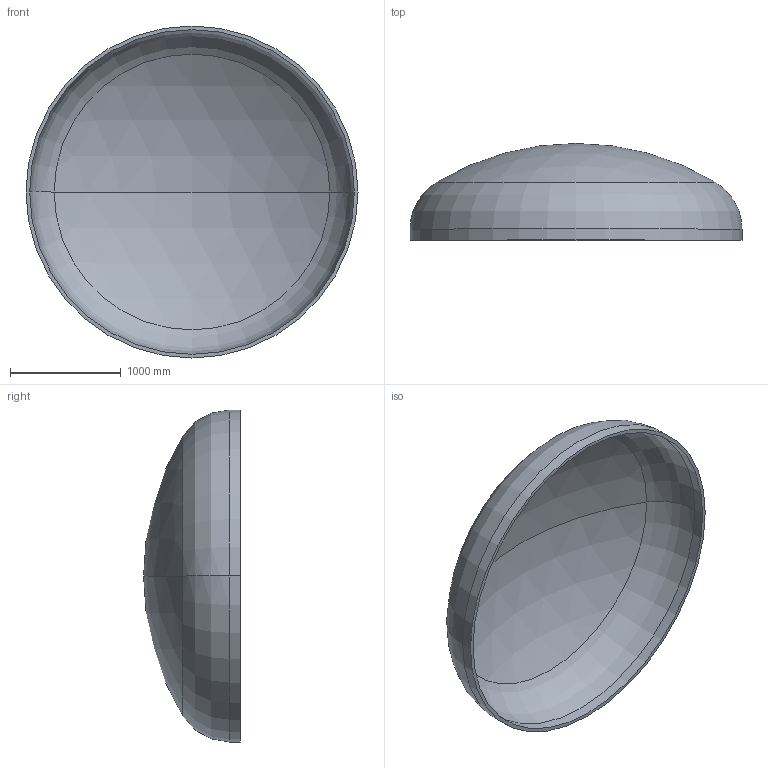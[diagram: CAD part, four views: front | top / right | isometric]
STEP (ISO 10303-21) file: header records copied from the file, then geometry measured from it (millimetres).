
FILE_DESCRIPTION (( 'STEP AP203' ), '1' );
FILE_NAME ('DIN 28013 Korbbogenform_-_Boden DIN 28013 - 3000 x 100 - I - s=33.step', '2016-07-01T17:41:52', ( '' ), ( '' ), 'SwSTEP 2.0', 'SolidWorks 2013', '' );
FILE_SCHEMA (( 'CONFIG_CONTROL_DESIGN' ));
Length unit declared in the file: millimetre
Products named in the file (1): DIN 28013 Korbbogenform_-_Boden DIN 28013 - 3000 x 100 - I - s=33
Bounding box: 3000 x 874.82 x 3000 mm (x, y, z)
Volume: 348889774.9 mm3; surface area: 21454704.4 mm2
Topology: 1 solids, 1 shells, 13 faces, 24 edges, 14 vertices
Faces by surface type: torus 4, cylinder 4, sphere 4, plane 1
Entity records: 407 total; most frequent: DIRECTION 72, CARTESIAN_POINT 52, ORIENTED_EDGE 48, AXIS2_PLACEMENT_3D 34, EDGE_CURVE 24, CIRCLE 20, EDGE_LOOP 14, VERTEX_POINT 14
